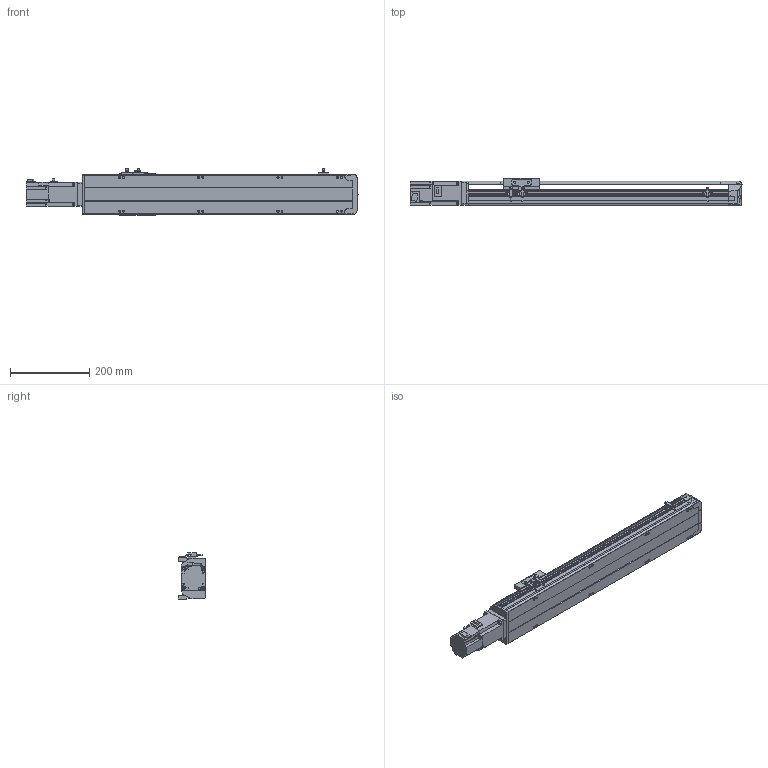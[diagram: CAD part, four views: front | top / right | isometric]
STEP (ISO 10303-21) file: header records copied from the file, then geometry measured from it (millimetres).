
FILE_DESCRIPTION( ( 'STEP AP214' ), '1' );
FILE_NAME( 'x:/temp/worker_13/temp/exporttempdir_3252_145_LZfyD/format_0/PSS120-L10-S450-BC-T40-C1-N(0).stp', '2022-06-02T00:33:06', ( 'License CC BY-ND 4.0' ), ( 'CADENAS' ), ' ', 'PARTsolutions', ' ' );
FILE_SCHEMA( ( 'AUTOMOTIVE_DESIGN { 1 0 10303 214 1 1 1 1 }' ) );
Length unit declared in the file: millimetre
Products named in the file (8): PSS120-L10-S450-BC-T40-C1-N(0); _PSS120-S450-BC-C1-N_body; _PSS120-N_Q; _PSS120-BC-C1-N_sl; _PSS120-N_sensor; _PSS120BC-N_h; _T40-p1; _PSS120-S450-BC-N_S
Assembly tree (9 placements, depth 2):
  PSS120-L10-S450-BC-T40-C1-N(0)
    _PSS120-S450-BC-C1-N_body
    _PSS120-N_Q
    _PSS120-BC-C1-N_sl
    _PSS120-N_sensor  x3
    _PSS120BC-N_h
    _T40-p1
    _PSS120-S450-BC-N_S
Bounding box: 838.7 x 70 x 117.7 mm (x, y, z)
Volume: 2736212.8 mm3; surface area: 497525.6 mm2
Topology: 9 solids, 9 shells, 801 faces, 2144 edges, 1422 vertices
Faces by surface type: plane 547, cylinder 234, cone 20
Full cylindrical faces by diameter (mm): 2.8 x3, 4 x4, 4.134 x12, 4.2 x4, 4.4 x2, 4.5 x4, 4.6 x3, 4.917 x4, 5 x6, 5.5 x15, 7 x2, 8 x8, 8.5 x12, 14 x1, 28 x1, 32 x1, 50 x1
Entity records: 27329 total; most frequent: CARTESIAN_POINT 4190, DIRECTION 3599, ORIENTED_EDGE 3490, EDGE_CURVE 1745, LINE 1233, VECTOR 1233, VERTEX_POINT 1214, AXIS2_PLACEMENT_3D 1183
